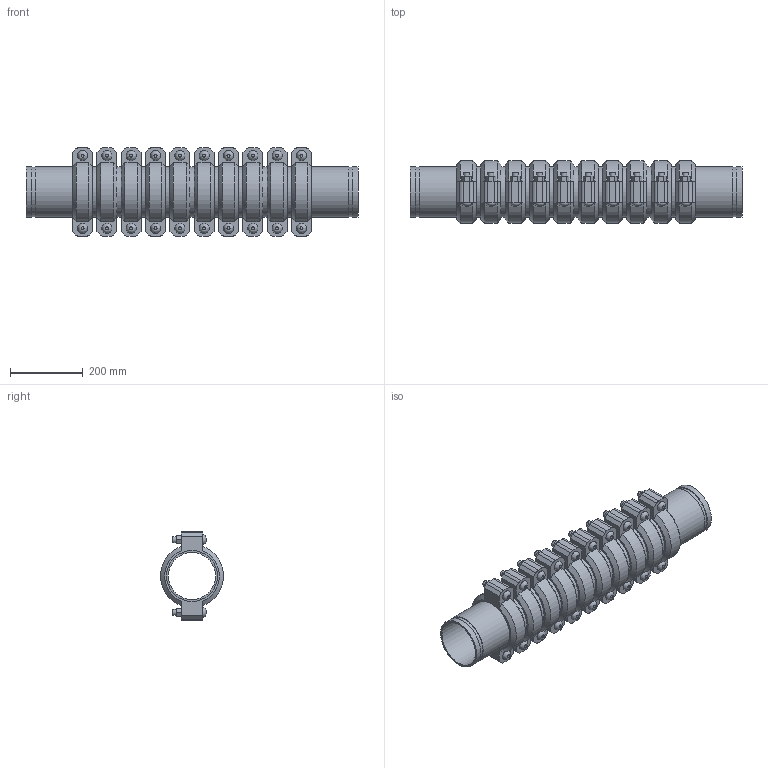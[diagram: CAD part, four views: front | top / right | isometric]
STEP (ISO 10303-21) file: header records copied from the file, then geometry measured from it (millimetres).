
FILE_DESCRIPTION(/* description */ ('VIC EXPANSION JOINT 10 COUPLINGS EXPANDED STYLE 155 (OGS)','CAx-IF Rec.Pracs.---Representation and Presentation of Product Manufacturing Information (PMI)---4.0---2014-10-13'),/* implementation_level */ '2;1');
FILE_NAME(/* name */ 'C:\Users\kkamble\AppData\Roaming\Autodesk\ApplicationPlugins\Victaulic.Temp\A992\Victaulic_IPS_Expansion Joint_Expanded_10 Couplings_Style 155 (OGS)_05.0 (139.7) (125).stp',/* time_stamp */ '2021-06-26T23:50:00+02:00',/* author */ ('kkamble'),/* organization */ ('Victaulic'),/* preprocessor_version */ 'ST-DEVELOPER v17.2',/* originating_system */ 'Autodesk Inventor 2019',/* authorisation */ '');
FILE_SCHEMA (('AP242_MANAGED_MODEL_BASED_3D_ENGINEERING_MIM_LF { 1 0 10303 442 1 1 4 }'));
Length unit declared in the file: inch
Products named in the file (4): 155-05.0 (139.7); Nipple-05.0 (139.7); Nipple-05.0 (139.7)_1; 075-05.0 (139.7)
Assembly tree (21 placements, depth 2):
  155-05.0 (139.7)
    Nipple-05.0 (139.7)  x2
    Nipple-05.0 (139.7)_1  x9
    075-05.0 (139.7)  x10
Bounding box: 911.61 x 172.14 x 243.59 mm (x, y, z)
Volume: 8074602.9 mm3; surface area: 1811218.1 mm2
Topology: 21 solids, 41 shells, 702 faces, 1660 edges, 1164 vertices
Faces by surface type: plane 426, cylinder 216, cone 40, bspline 20
Full cylindrical faces by diameter (mm): 15.875 x40, 17.424 x20, 129.388 x11, 133.35 x10, 135.484 x22, 139.7 x53
Entity records: 2881 total; most frequent: CARTESIAN_POINT 505, DIRECTION 485, ORIENTED_EDGE 386, AXIS2_PLACEMENT_3D 196, EDGE_CURVE 193, VERTEX_POINT 138, EDGE_LOOP 107, LINE 93
